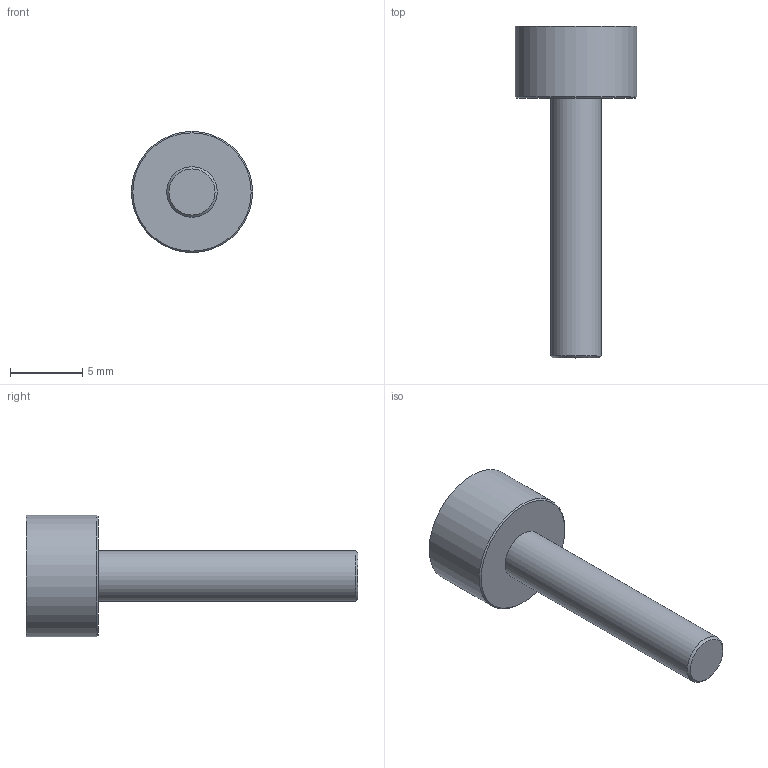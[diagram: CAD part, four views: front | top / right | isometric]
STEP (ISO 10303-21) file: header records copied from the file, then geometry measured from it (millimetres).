
FILE_DESCRIPTION (( 'STEP AP214' ), '1' );
FILE_NAME ('SE-16.STEP', '2018-10-09T18:06:11', ( '' ), ( '' ), 'SwSTEP 2.0', 'SolidWorks 2017', '' );
FILE_SCHEMA (( 'AUTOMOTIVE_DESIGN' ));
Length unit declared in the file: millimetre
Products named in the file (1): SE-16
Bounding box: 8.4 x 23 x 8.4 mm (x, y, z)
Volume: 444.8 mm3; surface area: 447.3 mm2
Topology: 1 solids, 1 shells, 20 faces, 48 edges, 32 vertices
Faces by surface type: plane 11, cylinder 7, cone 2
Full cylindrical faces by diameter (mm): 3.5 x1, 8.4 x1
Entity records: 574 total; most frequent: CARTESIAN_POINT 123, ORIENTED_EDGE 84, DIRECTION 80, EDGE_CURVE 42, VERTEX_POINT 30, AXIS2_PLACEMENT_3D 27, LINE 26, VECTOR 26
